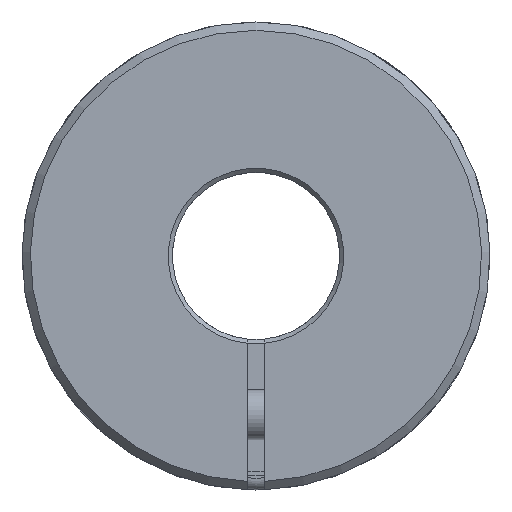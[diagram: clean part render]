
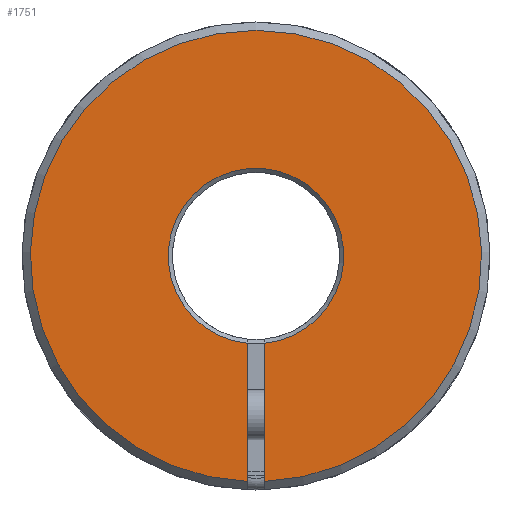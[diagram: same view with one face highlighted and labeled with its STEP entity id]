
A CAD part, left-side view. The second image highlights one B-rep face of the part: STEP entity #1751.
In plain terms, the highlighted planar face has unit normal (-1, 0, 0).
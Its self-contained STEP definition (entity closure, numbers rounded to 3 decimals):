
#113=PLANE('',#1990);
#184=LINE('',#3059,#268);
#185=LINE('',#3061,#269);
#268=VECTOR('',#2479,1000.);
#269=VECTOR('',#2480,1000.);
#577=ORIENTED_EDGE('',*,*,#867,.F.);
#578=ORIENTED_EDGE('',*,*,#865,.F.);
#579=ORIENTED_EDGE('',*,*,#868,.F.);
#580=ORIENTED_EDGE('',*,*,#869,.T.);
#865=EDGE_CURVE('',#1046,#1047,#1182,.T.);
#867=EDGE_CURVE('',#1047,#1048,#184,.T.);
#868=EDGE_CURVE('',#1049,#1046,#185,.T.);
#869=EDGE_CURVE('',#1049,#1048,#1184,.T.);
#1046=VERTEX_POINT('',#3054);
#1047=VERTEX_POINT('',#3056);
#1048=VERTEX_POINT('',#3060);
#1049=VERTEX_POINT('',#3062);
#1182=CIRCLE('',#1988,10.5);
#1184=CIRCLE('',#1991,27.);
#1367=EDGE_LOOP('',(#577,#578,#579,#580));
#1582=FACE_BOUND('',#1367,.T.);
#1751=ADVANCED_FACE('',(#1582),#113,.T.);
#1988=AXIS2_PLACEMENT_3D('',#3055,#2473,#2474);
#1990=AXIS2_PLACEMENT_3D('',#3058,#2477,#2478);
#1991=AXIS2_PLACEMENT_3D('',#3063,#2481,#2482);
#2473=DIRECTION('',(-1.,0.,0.));
#2474=DIRECTION('',(0.,0.,1.));
#2477=DIRECTION('',(-1.,0.,0.));
#2478=DIRECTION('',(0.,0.,1.));
#2479=DIRECTION('',(0.,0.,-1.));
#2480=DIRECTION('',(0.,0.,1.));
#2481=DIRECTION('',(-1.,0.,0.));
#2482=DIRECTION('',(0.,0.,1.));
#3054=CARTESIAN_POINT('',(-36.191,-1.,-10.452));
#3055=CARTESIAN_POINT('',(-36.191,0.,0.));
#3056=CARTESIAN_POINT('',(-36.191,1.,-10.452));
#3058=CARTESIAN_POINT('',(-36.191,0.,10.));
#3059=CARTESIAN_POINT('',(-36.191,1.,-9.95));
#3060=CARTESIAN_POINT('',(-36.191,1.,-26.981));
#3061=CARTESIAN_POINT('',(-36.191,-1.,-9.95));
#3062=CARTESIAN_POINT('',(-36.191,-1.,-26.981));
#3063=CARTESIAN_POINT('',(-36.191,0.,0.));
